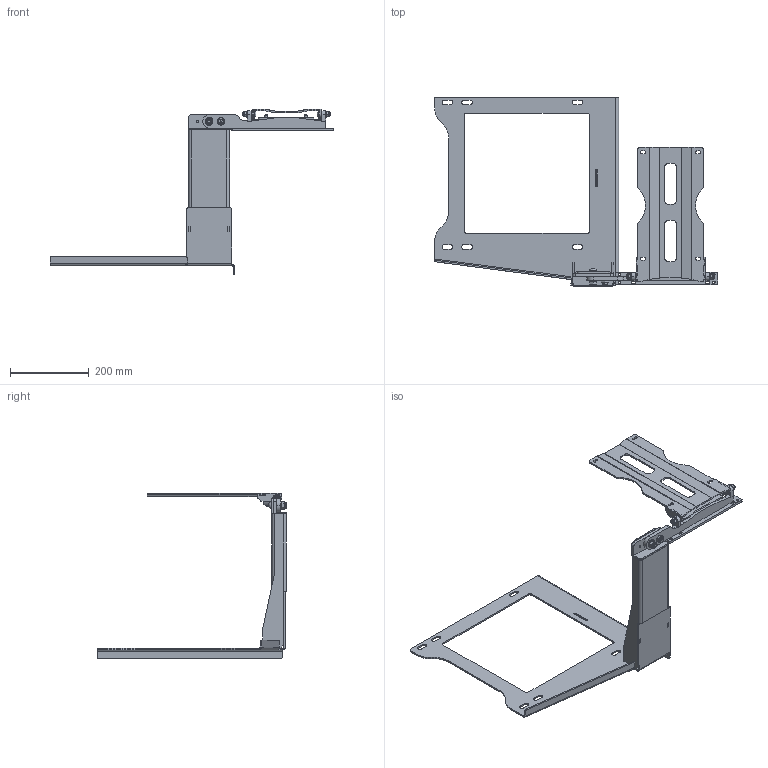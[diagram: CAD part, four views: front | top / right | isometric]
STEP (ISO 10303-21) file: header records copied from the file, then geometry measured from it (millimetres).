
FILE_DESCRIPTION(('STEP AP214'),'1');
FILE_NAME('81TAB001001A_TABLETTE DROITE.stp','2026-02-04T10:03:02',(' '),(' '),'Spatial InterOp 3D',' ',' ');
FILE_SCHEMA(('AUTOMOTIVE_DESIGN { 1 0 10303 214 1 1 1 1 }'));
Length unit declared in the file: millimetre
Products named in the file (31): 81TAB001010A_CHASSIS DROIT; 81TAB001014B_RENFORT D'AXE; 81TAB001015A_BUTEE; 81TAB001013D_MONTANT INTERIEUR; 81TAB001012C_MONTANT EXTERIEURE; 81TAB001011C_BASSE CHASSIS DROIT; 81TAB001001A_TABLETTE DROITE; 81TAB001024A_PIVOT ACCOUDOIRE DR; 81TAB001204A_PIVOT TABLETTE; 81TAB001203B_CORPS; 81TAB001202A_PLAQUE SUPPERIEURE; 81TAB001020A_ACCOUDOIR TABLETTE DR; Rondelle Plate Inox; Vis BHC Acier ISO7380; 81TAB001033A_OSS. TABLETTE RABATTABLE; 81TAB001303C_CORPS OSSATURE; 81TAB001304B_ARTICULATION OSSATURE; 81TAB001030A_TABLETTE RABATTABLE DROITE; 81TAB001032A_BUTEE; Ecrou Noyé Tef FHO Inox; 81TAB001302C_TOLE BUTEE; Vis H Embase Acier Zingué ISO 4161; Ecrou H Autofreiné Acier  ISO 7040; Vis Poussoir à Bille Orientable Sans Tête Avec Fente NORELEM 03000-212; Ecrou Hm Acier Zingué ISO 4035
Assembly tree (40 placements, depth 4):
  81TAB001014B_RENFORT D'AXE
  81TAB001001A_TABLETTE DROITE
    81TAB001010A_CHASSIS DROIT
      81TAB001015A_BUTEE
      81TAB001013D_MONTANT INTERIEUR
      81TAB001012C_MONTANT EXTERIEURE
      81TAB001011C_BASSE CHASSIS DROIT
    81TAB001020A_ACCOUDOIR TABLETTE DR
      81TAB001024A_PIVOT ACCOUDOIRE DR
        81TAB001024A_PIVOT ACCOUDOIRE DR
        81TAB001204A_PIVOT TABLETTE  x2
        81TAB001203B_CORPS
        81TAB001202A_PLAQUE SUPPERIEURE
    Rondelle Plate Inox  x2
    Vis BHC Acier ISO7380
    81TAB001030A_TABLETTE RABATTABLE DROITE
      81TAB001033A_OSS. TABLETTE RABATTABLE
        81TAB001303C_CORPS OSSATURE
        81TAB001304B_ARTICULATION OSSATURE
      81TAB001032A_BUTEE
        Ecrou Noyé Tef FHO Inox  x2
        81TAB001302C_TOLE BUTEE
      Vis H Embase Acier Zingué ISO 4161  x2
    Ecrou H Autofreiné Acier  ISO 7040
    Rondelle Plate Inox  x6
    Vis BHC Acier ISO7380  x2
    Ecrou H Autofreiné Acier  ISO 7040  x2
    Vis Poussoir à Bille Orientable Sans Tête Avec Fente NORELEM 03000-212
      Vis Poussoir à Bille Orientable Sans Tête Avec Fente NORELEM 03000-212
      Vis Poussoir à Bille Orientable Sans Tête Avec Fente NORELEM 03000-212
    Ecrou Hm Acier Zingué ISO 4035
Bounding box: 719.41 x 481 x 419.01 mm (x, y, z)
Volume: 1327349.1 mm3; surface area: 679829.5 mm2
Topology: 34 solids, 34 shells, 949 faces, 2616 edges, 1763 vertices
Faces by surface type: plane 594, cylinder 202, cone 74, bspline 53, torus 25, sphere 1
Full cylindrical faces by diameter (mm): 4.2 x2, 5 x2, 5.5 x4, 6 x4, 6.8 x2, 7 x2, 8 x2, 8.2 x4, 8.5 x1, 8.6 x6, 8.9 x2, 10 x2, 10.2 x4, 10.8 x2, 11 x1, 11.2 x2, 12 x1, 13 x2, 16 x7, 20 x2
Entity records: 37190 total; most frequent: CARTESIAN_POINT 7191, ORIENTED_EDGE 4330, DIRECTION 3962, EDGE_CURVE 2165, VERTEX_POINT 1530, LINE 1442, VECTOR 1442, AXIS2_PLACEMENT_3D 1260
